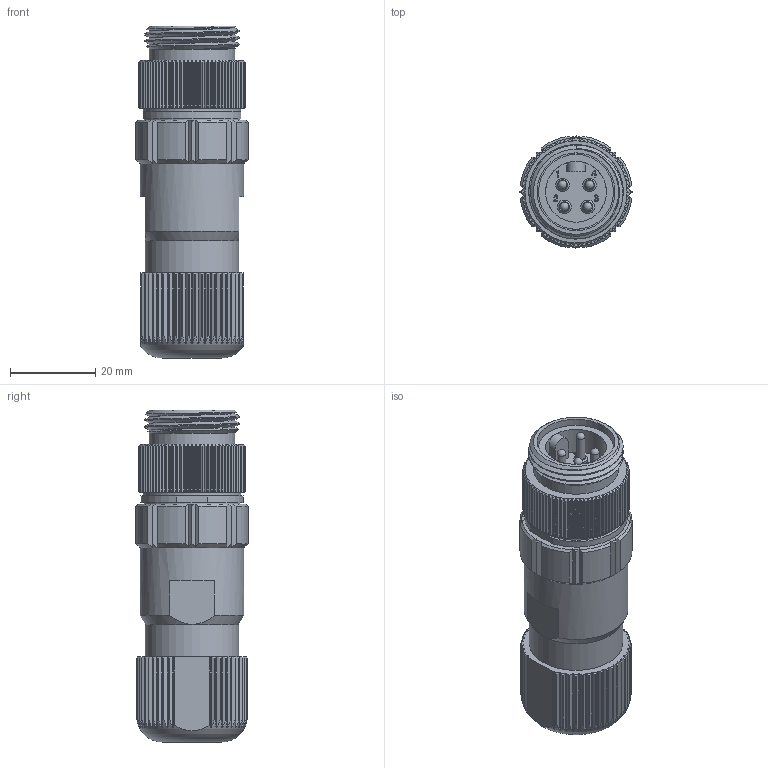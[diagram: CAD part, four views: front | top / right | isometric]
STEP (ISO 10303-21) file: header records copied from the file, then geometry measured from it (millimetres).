
FILE_DESCRIPTION (( 'STEP AP203' ), '1' );
FILE_NAME ('CM03-J4P(R1).STEP', '2022-04-07T03:55:39', ( '' ), ( '' ), 'SwSTEP 2.0', 'SolidWorks 2018', '' );
FILE_SCHEMA (( 'CONFIG_CONTROL_DESIGN' ));
Length unit declared in the file: millimetre
Products named in the file (1): CM03-J4P(R1)
Bounding box: 26.4 x 26.4 x 78 mm (x, y, z)
Volume: 25698 mm3; surface area: 12122.5 mm2
Topology: 1 solids, 1 shells, 1057 faces, 3098 edges, 2061 vertices
Faces by surface type: cylinder 515, plane 345, cone 148, bspline 43, sphere 4, torus 2
Full cylindrical faces by diameter (mm): 2.01 x4, 3.2 x4, 12 x1, 12.5 x1, 12.7 x1, 13 x1, 14.3 x1, 17.6 x1, 18.3 x1, 18.4 x1, 20 x1, 21.95 x1, 22.6 x1, 22.9 x1, 24.4 x1
Entity records: 39299 total; most frequent: CARTESIAN_POINT 13546, ORIENTED_EDGE 6062, DIRECTION 4385, EDGE_CURVE 3031, VERTEX_POINT 2036, AXIS2_PLACEMENT_3D 1587, B_SPLINE_CURVE_WITH_KNOTS 1242, LINE 1211
